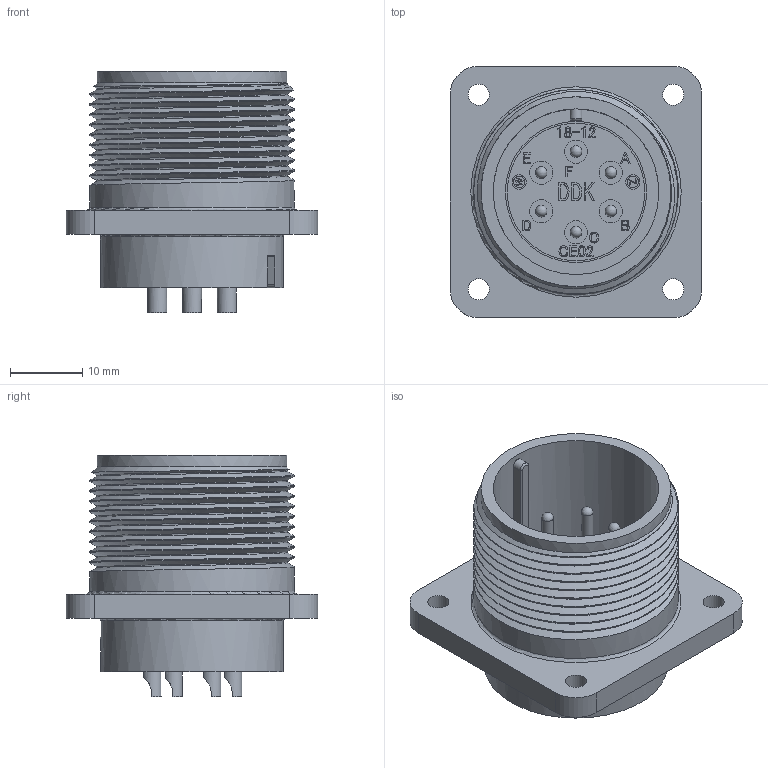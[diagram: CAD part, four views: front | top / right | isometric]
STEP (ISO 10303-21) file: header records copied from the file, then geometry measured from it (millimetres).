
FILE_DESCRIPTION (( 'STEP AP203' ), '1' );
FILE_NAME ('CE02-2A18-12P-D.STEP', '2022-04-18T09:00:53', ( '' ), ( '' ), 'SwSTEP 2.0', 'SolidWorks 2018', '' );
FILE_SCHEMA (( 'CONFIG_CONTROL_DESIGN' ));
Length unit declared in the file: millimetre
Products named in the file (1): CE02-2A18-12P-D
Bounding box: 34.92 x 34.92 x 33.45 mm (x, y, z)
Volume: 11011.1 mm3; surface area: 8756.5 mm2
Topology: 1 solids, 1 shells, 867 faces, 2363 edges, 1570 vertices
Faces by surface type: plane 437, bspline 322, cylinder 91, cone 8, sphere 6, torus 3
Full cylindrical faces by diameter (mm): 1.6 x2, 1.61 x6, 2 x2, 2.93 x4, 3.2 x6, 5.8 x1, 18 x1, 19.1 x1, 19.6 x1, 23 x1, 25.4 x1, 26.35 x1, 28.4 x9
Entity records: 37534 total; most frequent: CARTESIAN_POINT 18339, ORIENTED_EDGE 4516, DIRECTION 2778, EDGE_CURVE 2258, VERTEX_POINT 1523, VECTOR 1416, LINE 1416, EDGE_LOOP 987
